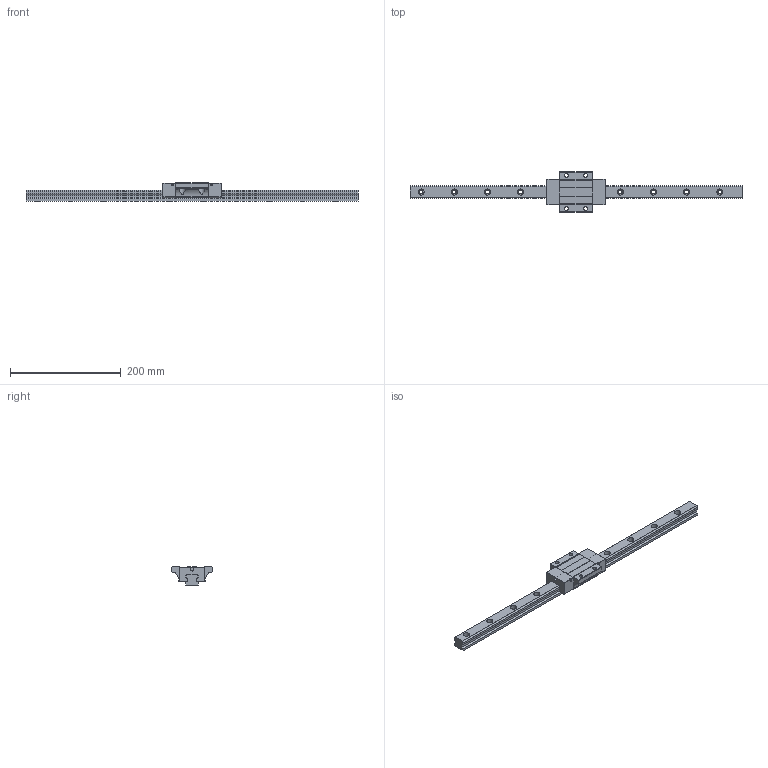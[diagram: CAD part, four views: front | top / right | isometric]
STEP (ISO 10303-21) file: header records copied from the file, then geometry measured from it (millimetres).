
FILE_DESCRIPTION (( 'STEP AP203' ), '1' );
FILE_NAME ('TRS25FN-DZ.STEP', '2024-07-11T06:13:40', ( '' ), ( '' ), 'SwSTEP 2.0', 'SolidWorks 2022', '' );
FILE_SCHEMA (( 'CONFIG_CONTROL_DESIGN' ));
Length unit declared in the file: millimetre
Products named in the file (1): TRS25FN-DZ
Bounding box: 600 x 73 x 33 mm (x, y, z)
Volume: 349574.7 mm3; surface area: 84615.6 mm2
Topology: 2 solids, 2 shells, 230 faces, 614 edges, 400 vertices
Faces by surface type: cylinder 126, plane 100, sphere 4
Entity records: 7971 total; most frequent: CARTESIAN_POINT 1955, DIRECTION 1274, ORIENTED_EDGE 1220, EDGE_CURVE 610, AXIS2_PLACEMENT_3D 459, VERTEX_POINT 400, LINE 356, VECTOR 356
